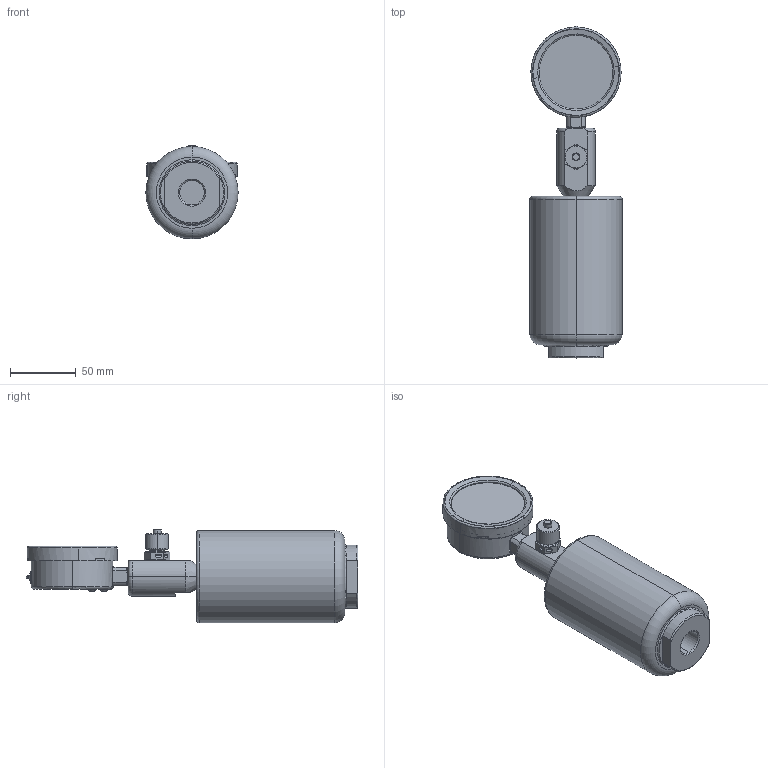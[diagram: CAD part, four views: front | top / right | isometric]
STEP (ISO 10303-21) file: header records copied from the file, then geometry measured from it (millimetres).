
FILE_DESCRIPTION (( 'STEP AP214' ), '1' );
FILE_NAME ('U002G18X1-AI (DGA).STEP', '2025-05-14T14:48:48', ( '' ), ( '' ), 'SwSTEP 2.0', 'SolidWorks 2024', '' );
FILE_SCHEMA (( 'AUTOMOTIVE_DESIGN' ));
Length unit declared in the file: millimetre
Products named in the file (1): U002G18X1-AI (DGA)
Bounding box: 70 x 251.83 x 71 mm (x, y, z)
Surface area: 75905.3 mm2 (no closed solid volume)
Topology: 0 solids, 15 shells, 362 faces, 925 edges, 574 vertices
Faces by surface type: cylinder 105, plane 92, cone 61, torus 57, bspline 36, sphere 11
Entity records: 15633 total; most frequent: CARTESIAN_POINT 2953, DIRECTION 1880, ORIENTED_EDGE 1691, EDGE_CURVE 920, AXIS2_PLACEMENT_3D 781, VERTEX_POINT 574, CIRCLE 454, EDGE_LOOP 405
